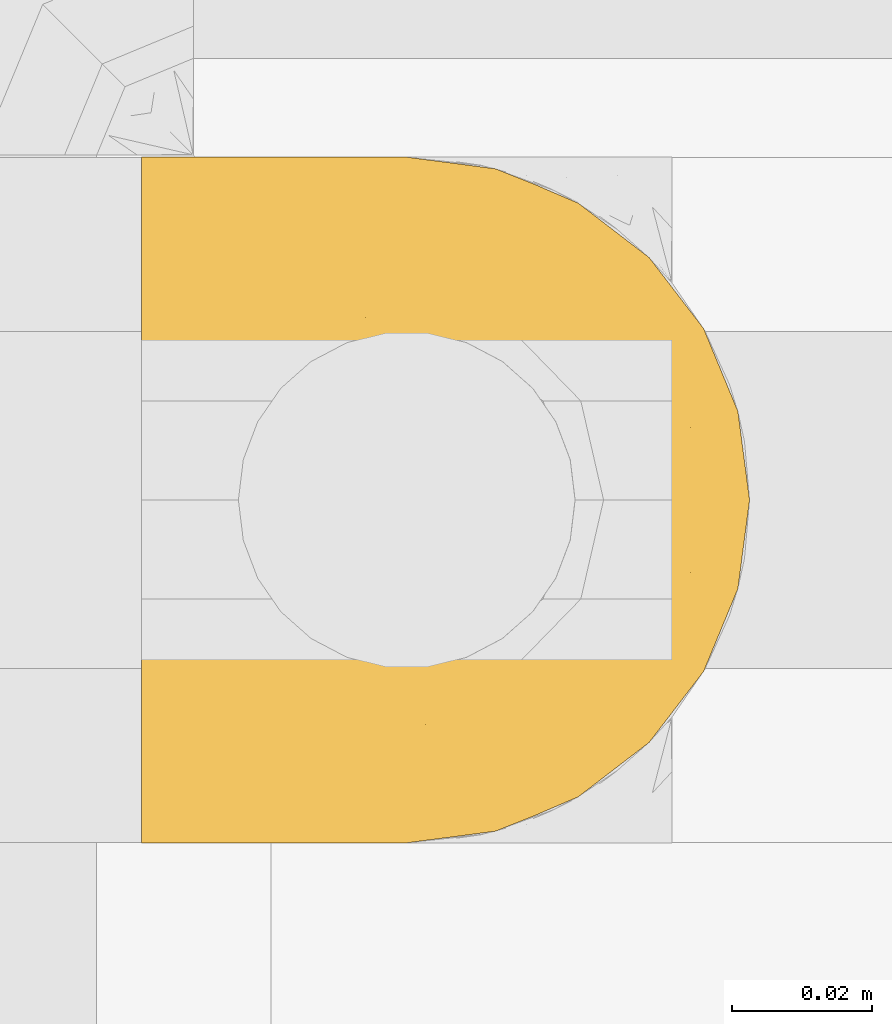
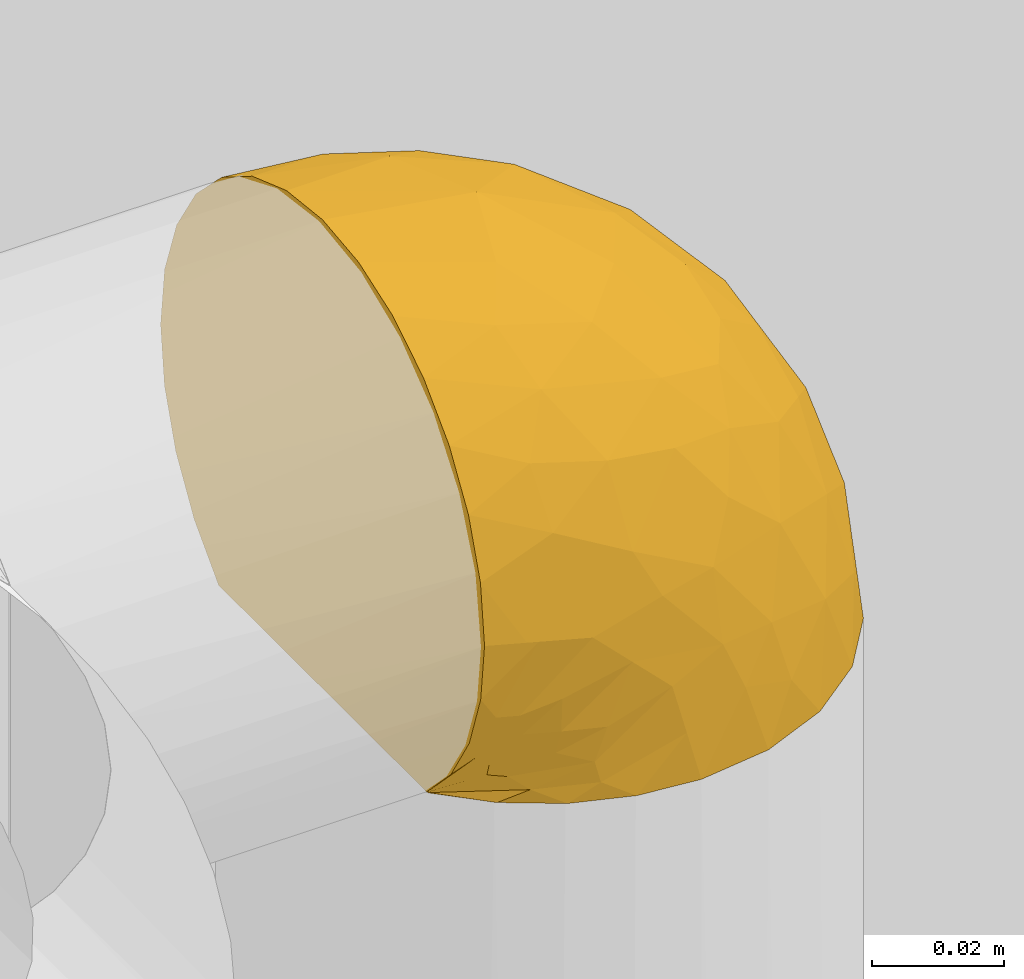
# One storey, part 31 of 94: 1 covering.
"""IFC2X3 building model written with IfcOpenShell, lengths in millimetres."""

from ifc_helpers import new_model, entity, si_unit, converted_unit, derived_unit, direction, frame, origin, place, context, subcontext, project, spatial, faceted_brep, material, element, save


model = new_model("IFC2X3")

# Units and contexts
model_context = context("Model", 3, precision=0.01, world=origin(), true_north=direction((6.123031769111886e-17, 1.0)))
body_context = subcontext(model_context, "Body", "Model", "MODEL_VIEW")
ifc_project = project(units=[si_unit("LENGTHUNIT", "METRE", prefix="MILLI"), si_unit("AREAUNIT", "SQUARE_METRE"), si_unit("VOLUMEUNIT", "CUBIC_METRE"), converted_unit("PLANEANGLEUNIT", "DEGREE", entity("IfcRatioMeasure", 0.017453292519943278), si_unit("PLANEANGLEUNIT", "RADIAN"), dimensions=[0, 0, 0, 0, 0, 0, 0]), si_unit("MASSUNIT", "GRAM", prefix="KILO"), derived_unit("MASSDENSITYUNIT", [(si_unit("MASSUNIT", "GRAM", prefix="KILO"), 1), (si_unit("LENGTHUNIT", "METRE"), -3)]), derived_unit("IONCONCENTRATIONUNIT", [(si_unit("MASSUNIT", "GRAM", prefix="KILO"), 1), (si_unit("LENGTHUNIT", "METRE"), -3)]), derived_unit("MOMENTOFINERTIAUNIT", [(si_unit("LENGTHUNIT", "METRE"), 4)]), si_unit("TIMEUNIT", "SECOND"), si_unit("FREQUENCYUNIT", "HERTZ"), si_unit("THERMODYNAMICTEMPERATUREUNIT", "DEGREE_CELSIUS"), derived_unit("THERMALTRANSMITTANCEUNIT", [(si_unit("MASSUNIT", "GRAM", prefix="KILO"), 1), (si_unit("THERMODYNAMICTEMPERATUREUNIT", "KELVIN"), -1), (si_unit("TIMEUNIT", "SECOND"), -3)]), derived_unit("THERMALCONDUCTANCEUNIT", [(si_unit("MASSUNIT", "GRAM", prefix="KILO"), 1), (si_unit("THERMODYNAMICTEMPERATUREUNIT", "KELVIN"), -1), (si_unit("TIMEUNIT", "SECOND"), -3), (si_unit("LENGTHUNIT", "METRE"), 1)]), derived_unit("VOLUMETRICFLOWRATEUNIT", [(si_unit("LENGTHUNIT", "METRE"), 3), (si_unit("TIMEUNIT", "SECOND"), -1)]), derived_unit("MASSFLOWRATEUNIT", [(si_unit("MASSUNIT", "GRAM", prefix="KILO"), 1), (si_unit("TIMEUNIT", "SECOND"), -1)]), derived_unit("ROTATIONALFREQUENCYUNIT", [(si_unit("TIMEUNIT", "SECOND"), -1)]), si_unit("ELECTRICCURRENTUNIT", "AMPERE"), si_unit("ELECTRICVOLTAGEUNIT", "VOLT"), si_unit("POWERUNIT", "WATT"), si_unit("FORCEUNIT", "NEWTON", prefix="KILO"), si_unit("ILLUMINANCEUNIT", "LUX"), si_unit("LUMINOUSFLUXUNIT", "LUMEN"), si_unit("LUMINOUSINTENSITYUNIT", "CANDELA"), derived_unit("USERDEFINED", [(si_unit("MASSUNIT", "GRAM", prefix="KILO"), -1), (si_unit("LENGTHUNIT", "METRE"), -2), (si_unit("TIMEUNIT", "SECOND"), 3), (si_unit("LUMINOUSFLUXUNIT", "LUMEN"), 1)]), derived_unit("USERDEFINED", [(si_unit("MASSUNIT", "GRAM", prefix="KILO"), 1), (si_unit("TIMEUNIT", "SECOND"), -3), (si_unit("LENGTHUNIT", "METRE"), 3), (si_unit("ELECTRICCURRENTUNIT", "AMPERE"), -2)]), derived_unit("SOUNDPOWERUNIT", [(si_unit("MASSUNIT", "GRAM", prefix="KILO"), 1), (si_unit("TIMEUNIT", "SECOND"), -3), (si_unit("LENGTHUNIT", "METRE"), 2)]), derived_unit("SOUNDPRESSUREUNIT", [(si_unit("MASSUNIT", "GRAM", prefix="KILO"), 1), (si_unit("LENGTHUNIT", "METRE"), -1), (si_unit("TIMEUNIT", "SECOND"), -2)]), derived_unit("LINEARVELOCITYUNIT", [(si_unit("LENGTHUNIT", "METRE"), 1), (si_unit("TIMEUNIT", "SECOND"), -1)]), si_unit("PRESSUREUNIT", "PASCAL"), derived_unit("USERDEFINED", [(si_unit("MASSUNIT", "GRAM", prefix="KILO"), 1), (si_unit("LENGTHUNIT", "METRE"), -2), (si_unit("TIMEUNIT", "SECOND"), -2)]), derived_unit("LINEARFORCEUNIT", [(si_unit("MASSUNIT", "GRAM", prefix="KILO"), 1), (si_unit("TIMEUNIT", "SECOND"), -2)]), derived_unit("PLANARFORCEUNIT", [(si_unit("MASSUNIT", "GRAM", prefix="KILO"), 1), (si_unit("LENGTHUNIT", "METRE"), -1), (si_unit("TIMEUNIT", "SECOND"), -2)]), derived_unit("SPECIFICHEATCAPACITYUNIT", [(si_unit("THERMODYNAMICTEMPERATUREUNIT", "KELVIN"), -1), (si_unit("LENGTHUNIT", "METRE"), 2), (si_unit("TIMEUNIT", "SECOND"), -2)]), derived_unit("HEATINGVALUEUNIT", [(si_unit("LENGTHUNIT", "METRE"), 2), (si_unit("TIMEUNIT", "SECOND"), -2)]), derived_unit("VAPORPERMEABILITYUNIT", [(si_unit("LENGTHUNIT", "METRE"), -1), (si_unit("TIMEUNIT", "SECOND"), 1)]), derived_unit("DYNAMICVISCOSITYUNIT", [(si_unit("MASSUNIT", "GRAM", prefix="KILO"), 1), (si_unit("TIMEUNIT", "SECOND"), -1), (si_unit("LENGTHUNIT", "METRE"), -1)]), derived_unit("THERMALEXPANSIONCOEFFICIENTUNIT", [(si_unit("THERMODYNAMICTEMPERATUREUNIT", "KELVIN"), -1)]), derived_unit("MODULUSOFELASTICITYUNIT", [(si_unit("MASSUNIT", "GRAM", prefix="KILO"), 1), (si_unit("LENGTHUNIT", "METRE"), -1), (si_unit("TIMEUNIT", "SECOND"), -2)]), derived_unit("ISOTHERMALMOISTURECAPACITYUNIT", [(si_unit("LENGTHUNIT", "METRE"), 3), (si_unit("MASSUNIT", "GRAM", prefix="KILO"), -1)]), derived_unit("MOISTUREDIFFUSIVITYUNIT", [(si_unit("TIMEUNIT", "SECOND"), -1), (si_unit("LENGTHUNIT", "METRE"), 2)])], contexts=[model_context])

# Site, building, storey
site_placement = place(None, origin())
site = spatial("IfcSite", under=ifc_project, at=site_placement, Name="Default", CompositionType="ELEMENT")
building_placement = place(site_placement, origin())
building = spatial("IfcBuilding", under=site, at=building_placement, CompositionType="ELEMENT")
storey_placement = place(building_placement, origin())
storey = spatial("IfcBuildingStorey", under=building, at=storey_placement, Name="Niveau 0", CompositionType="ELEMENT", Elevation=0.0)

# Covering
ifc_material = material(Name="Isolation - Laine minérale")
covering_placement = place(storey_placement, frame((-6897.752898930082, 9224.732407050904, 1050.7544560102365)))
element("IfcCovering", 1, at=covering_placement, inside=storey, material=ifc_material, Name="Isolation des canalisations:Laine minérale", ObjectType="Isolation des canalisations:Laine minérale", PredefinedType="INSULATION", context=body_context, shape_type="Brep", body=[
    faceted_brep([(1.599071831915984, 6.466386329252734, -29.412134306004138), (1.5977989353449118, 12.324234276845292, -20.09325186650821), (1.5967361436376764, 20.107905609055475, -12.312548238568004), (1.595936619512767, 29.426998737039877, -6.459227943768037), (1.5954403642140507, 39.814613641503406, -2.826140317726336), (1.5952722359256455, 50.74527223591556, -1.5952722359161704), (1.5954407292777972, 61.68764083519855, -2.828812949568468), (1.5959375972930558, 72.07840990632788, -6.466386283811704), (1.5967377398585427, 81.39729243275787, -12.32423417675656), (1.5978009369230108, 89.17799613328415, -20.107905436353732), (1.599073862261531, 95.03131648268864, -29.42699847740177), (1.600492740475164, 98.66440414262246, -39.81461328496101), (1.6019857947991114, 99.89527223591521, -50.74527177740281), (1.6034414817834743, 98.72598594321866, -61.40236378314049), (1.6048274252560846, 95.27540895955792, -71.5488631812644), (1.6060779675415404, 89.70925185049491, -80.70408977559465), (1.6071327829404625, 82.30244478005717, -88.42639881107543), (1.6071327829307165, 79.8579303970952, -88.42639881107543), (1.6071327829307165, 78.07992321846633, -88.42639881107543), (1.6071327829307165, 76.30191603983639, -88.42639881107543), (1.6071327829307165, 74.80178385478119, -88.42639881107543), (1.6071327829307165, 73.30165166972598, -88.42639881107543), (1.6071327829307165, 70.3013872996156, -88.42639881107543), (1.6071327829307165, 67.30112292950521, -88.42639881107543), (1.6071327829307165, 64.30085855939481, -88.42639881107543), (1.6071327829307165, 61.300594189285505, -88.42639881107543), (1.6071327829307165, 59.80046200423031, -88.42639881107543), (1.6071327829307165, 58.30032981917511, -88.42639881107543), (1.6071327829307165, 55.85581543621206, -88.42639881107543), (1.6071327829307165, 53.4113010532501, -88.42639881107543), (1.6071327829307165, 50.96678667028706, -88.42639881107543), (1.6071327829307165, 48.52227228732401, -88.42639881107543), (1.6071327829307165, 46.077757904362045, -88.42639881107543), (1.6071327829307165, 43.63324352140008, -88.42639881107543), (1.6071327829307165, 41.18872913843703, -88.42639881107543), (1.6071327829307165, 38.74421475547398, -88.42639881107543), (1.6071327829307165, 36.29970037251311, -88.42639881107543), (1.6071327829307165, 33.85518598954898, -88.42639881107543), (1.6071327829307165, 31.41067160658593, -88.42639881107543), (1.6071327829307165, 28.966157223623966, -88.42639881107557), (1.6071327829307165, 26.521642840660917, -88.42639881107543), (1.6071327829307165, 24.077128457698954, -88.42639881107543), (1.6071327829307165, 21.63261407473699, -88.42639881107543), (1.6071327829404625, 19.188099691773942, -88.4263988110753), (1.6060756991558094, 11.768529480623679, -80.68748290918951), (1.604824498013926, 6.20512995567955, -71.52743281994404), (1.6034386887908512, 2.760021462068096, -61.381916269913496), (1.6019857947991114, 1.5952722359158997, -50.74527177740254), (1.600491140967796, 2.828812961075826, -39.802903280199), (1.9208580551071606, 82.30244478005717, -88.74008123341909), (9.653542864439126, 89.71722737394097, -88.74008123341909), (18.80910842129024, 95.28041302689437, -88.74008123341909), (28.952564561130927, 98.72768917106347, -88.74008123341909), (39.60198544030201, 99.8952722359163, -88.74008123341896), (52.32294150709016, 98.22052659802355, -88.74008123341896), (64.17698544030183, 93.31042083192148, -88.74008123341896), (74.35628373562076, 85.49957053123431, -88.74008123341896), (82.16713403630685, 75.32027223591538, -88.74008123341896), (87.07723980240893, 63.46622830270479, -88.74008123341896), (88.75198544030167, 50.74527223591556, -88.74008123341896), (87.07723980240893, 38.0243161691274, -88.74008123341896), (82.16713403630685, 26.17027223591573, -88.74008123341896), (74.35628373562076, 15.990973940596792, -88.74008123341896), (64.17698544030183, 8.180123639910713, -88.74008123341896), (52.32294150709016, 3.2700178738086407, -88.74008123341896), (39.60198544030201, 1.5952722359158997, -88.74008123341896), (28.952564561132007, 2.7628553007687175, -88.74008123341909), (18.80910842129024, 6.210131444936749, -88.74008123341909), (9.653542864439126, 11.773317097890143, -88.74008123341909), (1.9208580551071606, 19.188099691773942, -88.74008123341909), (1.9208580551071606, 21.63261407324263, -88.74008123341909), (1.9208580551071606, 23.132746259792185, -88.74008123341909), (1.9208580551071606, 25.105069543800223, -88.74008123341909), (1.9208580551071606, 27.077392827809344, -88.74008123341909), (1.9208580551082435, 29.049716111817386, -88.74008123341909), (1.9208580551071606, 31.02203939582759, -88.74008123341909), (1.9208580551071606, 32.994362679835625, -88.74008123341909), (1.9208580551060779, 34.966685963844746, -88.74008123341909), (1.9208580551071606, 36.93900924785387, -88.74008123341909), (1.9208580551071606, 38.91133253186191, -88.74008123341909), (1.9208580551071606, 40.88365581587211, -88.74008123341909), (1.9208580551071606, 42.85597909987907, -88.74008123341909), (1.9208580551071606, 44.82830238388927, -88.74008123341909), (1.9208580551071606, 46.800625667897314, -88.74008123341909), (1.9208580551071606, 48.772948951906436, -88.74008123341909), (1.9208580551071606, 50.74527223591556, -88.74008123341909), (1.9208580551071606, 52.71759551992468, -88.74008123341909), (1.9208580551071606, 54.6899188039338, -88.74008123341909), (1.9208580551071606, 56.66224208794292, -88.74008123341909), (1.9208580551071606, 58.634565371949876, -88.74008123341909), (1.9208580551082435, 60.606888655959, -88.74008123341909), (1.9208580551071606, 62.57921193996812, -88.74008123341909), (1.9208580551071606, 64.55153522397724, -88.74008123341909), (1.9208580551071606, 66.52385850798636, -88.74008123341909), (1.9208580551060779, 69.52412288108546, -88.74008123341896), (1.9208580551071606, 72.5243872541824, -88.74008123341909), (1.9208580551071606, 74.96890163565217, -88.74008123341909), (1.9208580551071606, 77.41341601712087, -88.74008123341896), (1.9208580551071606, 79.85793039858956, -88.74008123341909), (1.8361628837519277, 47.736165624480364, -88.52569489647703), (1.8275220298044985, 49.65663871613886, -88.51682324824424), (1.8266969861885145, 40.015034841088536, -88.51601196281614), (1.8332015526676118, 37.92517038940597, -88.52257503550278), (1.8392220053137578, 67.38941388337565, -88.52900981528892), (1.8399633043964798, 24.235216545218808, -88.52982766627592), (1.7911907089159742, 20.78538987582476, -88.4860436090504), (1.8233765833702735, 59.05039645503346, -88.51280648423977), (1.8289674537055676, 78.63567332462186, -88.51825911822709), (1.830917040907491, 76.79550951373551, -88.52022572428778), (1.8217097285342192, 30.116691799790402, -88.51123240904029), (1.8321750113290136, 28.08212986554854, -88.52151329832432), (1.8083792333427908, 57.07807315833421, -88.49942842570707), (1.834998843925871, 63.56537408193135, -88.5244583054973), (1.83821648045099, 61.679067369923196, -88.52790963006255), (1.8209309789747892, 65.53769732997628, -88.51050485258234), (1.845213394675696, 53.488401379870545, -88.53579054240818), (1.8343953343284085, 51.731434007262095, -88.52382243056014), (1.8313820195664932, 80.46905905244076, -88.5206999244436), (1.8413915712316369, 45.814463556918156, -88.53141988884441), (1.84210491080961, 33.98052390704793, -88.53222335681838), (1.8378409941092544, 35.873005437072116, -88.52750147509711), (1.8387043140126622, 43.93662342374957, -88.5284420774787), (1.8289674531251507, 22.382680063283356, -88.51825911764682), (1.8398395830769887, 26.091230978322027, -88.52969076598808), (1.8289674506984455, 19.188099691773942, -88.51825911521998), (1.759820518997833, 19.188099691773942, -88.48962581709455), (1.6906735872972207, 19.188099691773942, -88.46099251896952), (1.8289674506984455, 82.30244478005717, -88.51825911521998), (1.8576101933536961, 82.30244478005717, -88.58740213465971), (1.8862529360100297, 82.30244478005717, -88.65654515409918), (1.8146438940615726, 69.2819487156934, -88.50480781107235), (1.835669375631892, 32.05086767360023, -88.52516899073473), (1.8278712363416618, 55.23977580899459, -88.51716844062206), (1.8301533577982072, 41.997192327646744, -88.51945123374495), (1.8097267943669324, 72.07367611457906, -88.50056152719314), (1.8328809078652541, 74.05171799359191, -88.52224232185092), (1.8862529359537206, 19.188099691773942, -88.65654515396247), (1.8576101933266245, 19.188099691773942, -88.58740213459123), (1.6906735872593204, 82.30244478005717, -88.46099251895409), (1.7598205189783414, 82.30244478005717, -88.48962581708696), (23.504882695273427, 97.28124811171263, -85.2160711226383), (13.758935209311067, 92.74902053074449, -85.9314252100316), (22.419691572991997, 97.28124814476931, -81.07409098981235), (10.572856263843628, 91.53690626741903, -83.12952059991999), (37.056383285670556, 99.89527223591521, -79.24062970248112), (20.60158410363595, 99.89527223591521, -55.833880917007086), (16.02666895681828, 98.55465468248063, -66.39499780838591), (9.269535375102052, 97.278080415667, -67.93615787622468), (34.51078113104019, 99.89527223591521, -69.74117817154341), (9.669415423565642, 92.07963076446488, -80.6778773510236), (7.211771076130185, 91.52900227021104, -79.78453523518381), (23.95002065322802, 98.55451017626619, -74.31823708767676), (5.12784380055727, 97.27808034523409, -66.85127426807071), (4.412633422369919, 92.74255099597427, -76.59850722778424), (17.551020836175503, 95.80067304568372, -79.64671380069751), (9.057815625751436, 99.89527223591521, -52.742145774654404), (11.101784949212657, 99.89527223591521, -53.28957634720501), (16.73274530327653, 97.00624288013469, -73.61244527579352), (27.55618261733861, 99.89527223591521, -62.787529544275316), (12.079310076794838, 95.72444952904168, -73.87822212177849), (47.96176954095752, 98.806298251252, -75.22850486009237), (57.547837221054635, 96.15395161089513, -78.87586935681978), (54.08670311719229, 96.15395204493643, -67.00165049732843), (72.10600897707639, 50.74527223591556, -37.51379527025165), (84.48607916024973, 50.74527223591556, -61.80858988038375), (80.2550700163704, 61.150947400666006, -53.87195979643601), (82.15381444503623, 69.55416171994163, -67.09796929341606), (13.854836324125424, 92.36630119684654, -25.783385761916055), (15.169378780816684, 97.139499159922, -36.2423343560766), (60.78188495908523, 68.84346530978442, -29.55728482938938), (55.39116701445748, 77.72158647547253, -30.76642950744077), (43.89997820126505, 65.87379031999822, -15.287129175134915), (86.1335261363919, 59.79406227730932, -71.31048295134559), (33.37748312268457, 98.92731379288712, -53.15850029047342), (44.0080509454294, 98.83290111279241, -65.90555334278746), (77.4102708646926, 80.66589650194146, -75.28413945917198), (67.2083799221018, 89.73858973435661, -71.16202584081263), (73.23791212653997, 70.97959326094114, -47.23537341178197), (52.833854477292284, 85.50619835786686, -37.09421375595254), (48.88358916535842, 91.98182266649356, -44.51201673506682), (40.61134472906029, 90.08495167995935, -33.70072194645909), (28.773093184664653, 97.76708397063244, -44.04752592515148), (27.452129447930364, 92.36630165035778, -30.0409418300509), (19.802234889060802, 85.50619671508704, -18.30991503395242), (64.75296844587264, 79.74170159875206, -43.4982739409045), (28.52734603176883, 50.74527223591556, -5.857499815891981), (22.71609333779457, 66.98519337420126, -7.038621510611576), (42.32198794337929, 82.95415068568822, -25.61020726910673), (33.68603350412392, 76.90235033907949, -15.883125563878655), (16.80856169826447, 76.90235057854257, -10.598498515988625), (71.08387584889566, 62.41136454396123, -38.49692724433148), (60.335507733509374, 59.14440496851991, -25.338842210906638), (72.67382138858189, 80.66589656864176, -59.13090243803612), (58.906734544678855, 90.35846878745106, -53.84310678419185), (52.82383144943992, 50.74527223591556, -18.234251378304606), (43.46995362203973, 96.76859003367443, -52.69091526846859), (82.15427290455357, 31.936382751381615, -67.0996756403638), (86.13358337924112, 41.696646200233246, -71.31060844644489), (73.23748816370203, 30.510661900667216, -47.23490240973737), (72.6756933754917, 20.82464790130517, -59.13539590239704), (77.4107429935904, 20.824647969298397, -75.28679943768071), (52.843187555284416, 15.997599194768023, -37.08480430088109), (64.76160419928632, 21.749973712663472, -43.50891063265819), (55.419828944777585, 23.78070974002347, -30.782506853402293), (71.0883269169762, 39.07689625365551, -38.50403523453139), (80.25517645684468, 40.339228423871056, -53.87239692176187), (15.17410806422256, 4.3557532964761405, -36.22965974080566), (37.056383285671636, 1.5952722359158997, -79.24062970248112), (47.96176954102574, 2.6842462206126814, -75.22850485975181), (44.00805094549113, 2.657643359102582, -65.90555334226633), (22.71514881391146, 34.51880576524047, -7.033514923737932), (67.20837992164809, 11.751954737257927, -71.1620258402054), (54.08670311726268, 5.336592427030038, -67.00165049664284), (57.547837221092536, 5.336592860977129, -78.87586935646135), (27.45833398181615, 9.133617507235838, -30.02737199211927), (13.857407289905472, 9.133617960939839, -25.76868668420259), (58.90497843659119, 11.133496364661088, -53.83650546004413), (60.35082350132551, 42.355880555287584, -25.350730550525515), (60.78442175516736, 32.65614075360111, -29.554747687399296), (16.810696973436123, 24.60311342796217, -10.589363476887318), (28.789863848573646, 3.726587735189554, -44.045698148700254), (43.47758136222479, 4.723285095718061, -52.694333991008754), (48.88086035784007, 9.51566905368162, -44.49342756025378), (43.903456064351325, 35.63545880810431, -15.282153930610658), (33.68957232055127, 24.603113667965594, -15.87444053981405), (19.805549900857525, 15.99760083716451, -18.297083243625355), (42.34691978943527, 18.562313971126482, -25.59954884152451), (20.60158410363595, 1.5952722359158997, -55.833880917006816), (34.51078113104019, 1.5952722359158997, -69.74117817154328), (9.057815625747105, 1.5952722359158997, -52.742145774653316), (11.101784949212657, 1.5952722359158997, -53.28957634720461), (33.38505339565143, 2.563710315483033, -53.16206912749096), (27.556182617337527, 1.5952722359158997, -62.787529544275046), (40.61662847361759, 11.42544860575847, -33.671997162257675), (16.471193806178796, 5.763960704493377, -78.26259891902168), (22.41969033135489, 4.209296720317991, -81.07409096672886), (23.94856457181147, 2.9362789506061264, -74.3178728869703), (23.504882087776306, 4.20929655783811, -85.21607100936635), (13.758934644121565, 8.741524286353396, -85.93142528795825), (10.575201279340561, 9.952187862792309, -83.12920021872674), (7.671624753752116, 11.370201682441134, -82.67286875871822), (16.727363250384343, 4.487034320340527, -73.6178288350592), (7.2253646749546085, 9.938963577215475, -79.75340603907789), (9.271041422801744, 4.205290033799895, -67.91421601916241), (5.128045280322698, 4.205289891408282, -66.8299238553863), (4.415614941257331, 8.736414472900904, -76.57963926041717), (16.025142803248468, 2.9365242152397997, -66.39717881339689), (10.699088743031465, 5.683961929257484, -72.77979633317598)], [[[0, 1, 2, 3, 4, 5, 6, 7, 8, 9, 10, 11, 12, 13, 14, 15, 16, 17, 18, 19, 20, 21, 22, 23, 24, 25, 26, 27, 28, 29, 30, 31, 32, 33, 34, 35, 36, 37, 38, 39, 40, 41, 42, 43, 44, 45, 46, 47, 48]], [[49, 50, 51, 52, 53, 54, 55, 56, 57, 58, 59, 60, 61, 62, 63, 64, 65, 66, 67, 68, 69, 70, 71, 72, 73, 74, 75, 76, 77, 78, 79, 80, 81, 82, 83, 84, 85, 86, 87, 88, 89, 90, 91, 92, 93, 94, 95, 96, 97, 98]], [[99, 100, 84]], [[101, 102, 35]], [[103, 94, 93]], [[72, 71, 104]], [[105, 70, 69]], [[27, 26, 106]], [[18, 107, 108]], [[109, 74, 110]], [[28, 27, 111]], [[25, 112, 113]], [[108, 97, 96]], [[114, 93, 92]], [[115, 86, 116]], [[97, 107, 98]], [[107, 17, 117]], [[79, 102, 101]], [[99, 118, 32]], [[77, 119, 120]], [[103, 93, 114]], [[112, 91, 113]], [[89, 111, 106]], [[40, 39, 110]], [[107, 97, 108]], [[32, 118, 121]], [[92, 91, 112]], [[37, 120, 119]], [[85, 116, 86]], [[70, 105, 122]], [[72, 123, 73]], [[105, 124, 125, 126, 43]], [[117, 17, 16]], [[122, 71, 70]], [[41, 122, 42]], [[117, 127, 128, 129, 49]], [[110, 123, 40]], [[42, 122, 105]], [[103, 23, 130]], [[24, 114, 112]], [[114, 24, 23]], [[104, 123, 72]], [[92, 112, 114]], [[104, 122, 41]], [[24, 112, 25]], [[110, 73, 123]], [[36, 120, 37]], [[40, 123, 41]], [[75, 74, 109]], [[131, 76, 75]], [[119, 131, 37]], [[109, 110, 39]], [[109, 39, 38]], [[74, 73, 110]], [[123, 104, 41]], [[122, 104, 71]], [[26, 25, 113]], [[113, 90, 106]], [[88, 87, 132]], [[113, 106, 26]], [[77, 76, 119]], [[132, 111, 88]], [[106, 111, 27]], [[132, 28, 111]], [[88, 111, 89]], [[89, 106, 90]], [[113, 91, 90]], [[131, 119, 76]], [[38, 37, 131]], [[120, 36, 102]], [[131, 109, 38]], [[109, 131, 75]], [[79, 78, 102]], [[78, 120, 102]], [[78, 77, 120]], [[121, 81, 133]], [[36, 35, 102]], [[33, 121, 133]], [[80, 79, 101]], [[34, 101, 35]], [[132, 29, 28]], [[81, 80, 133]], [[29, 115, 116]], [[30, 29, 116]], [[87, 115, 132]], [[100, 116, 85]], [[31, 30, 100]], [[116, 100, 30]], [[32, 31, 99]], [[118, 82, 121]], [[100, 85, 84]], [[99, 83, 118]], [[82, 118, 83]], [[33, 32, 121]], [[83, 99, 84]], [[100, 99, 31]], [[34, 33, 133]], [[121, 82, 81]], [[133, 101, 34]], [[101, 133, 80]], [[86, 115, 87]], [[132, 115, 29]], [[134, 95, 94]], [[23, 103, 114]], [[94, 103, 130]], [[98, 107, 117]], [[108, 20, 19, 18]], [[21, 135, 134]], [[20, 135, 21]], [[134, 135, 95]], [[108, 96, 135]], [[108, 135, 20]], [[135, 96, 95]], [[134, 22, 21]], [[130, 22, 134]], [[42, 105, 43]], [[105, 69, 136, 137, 124]], [[98, 117, 49]], [[117, 16, 138, 139, 127]], [[18, 17, 107]], [[94, 130, 134]], [[22, 130, 23]], [[140, 141, 142]], [[143, 129, 128, 127]], [[53, 52, 144]], [[145, 146, 147]], [[142, 148, 144]], [[149, 127, 150]], [[51, 140, 52]], [[142, 151, 148]], [[52, 140, 144]], [[129, 143, 141]], [[14, 13, 152]], [[147, 150, 153]], [[154, 141, 143]], [[150, 138, 153]], [[14, 152, 153]], [[16, 15, 138]], [[13, 12, 155, 156]], [[151, 154, 157]], [[158, 157, 146]], [[156, 147, 152]], [[14, 153, 15]], [[50, 49, 129]], [[50, 129, 141]], [[141, 51, 50]], [[159, 147, 146]], [[145, 147, 156]], [[138, 15, 153]], [[149, 157, 154]], [[150, 127, 139, 138]], [[141, 140, 51]], [[144, 140, 142]], [[156, 152, 13]], [[153, 152, 147]], [[148, 151, 158]], [[159, 146, 157]], [[146, 145, 158]], [[154, 151, 142]], [[158, 151, 157]], [[127, 149, 143]], [[159, 149, 150]], [[149, 159, 157]], [[147, 159, 150]], [[141, 154, 142]], [[154, 143, 149]], [[155, 12, 11]], [[53, 144, 160]], [[161, 55, 54]], [[160, 162, 161]], [[163, 164, 165]], [[57, 166, 58]], [[167, 168, 10]], [[169, 170, 171]], [[58, 172, 59]], [[158, 173, 174]], [[175, 57, 56]], [[176, 56, 55]], [[165, 166, 177]], [[57, 175, 166]], [[176, 55, 161]], [[178, 179, 180]], [[181, 145, 168]], [[168, 182, 181]], [[183, 182, 167]], [[183, 9, 8]], [[168, 145, 156, 155]], [[168, 11, 10]], [[169, 184, 170]], [[6, 185, 186]], [[187, 183, 188]], [[189, 183, 8]], [[171, 188, 186]], [[163, 190, 191]], [[187, 188, 170]], [[192, 176, 193]], [[8, 7, 189]], [[186, 7, 6]], [[6, 5, 185]], [[188, 189, 186]], [[169, 177, 184]], [[171, 185, 194]], [[193, 176, 162]], [[10, 9, 167]], [[144, 174, 160]], [[155, 11, 168]], [[175, 176, 192]], [[177, 166, 192]], [[172, 166, 165]], [[182, 187, 180]], [[181, 195, 173]], [[186, 189, 7]], [[183, 189, 188]], [[183, 167, 9]], [[168, 167, 182]], [[185, 171, 186]], [[191, 171, 194]], [[195, 193, 162]], [[193, 178, 184]], [[174, 162, 160]], [[181, 182, 180]], [[184, 177, 192]], [[177, 190, 165]], [[177, 169, 190]], [[172, 165, 164]], [[59, 172, 164]], [[58, 166, 172]], [[191, 190, 169]], [[163, 165, 190]], [[171, 191, 169]], [[163, 191, 194]], [[193, 184, 192]], [[181, 173, 145]], [[184, 178, 170]], [[187, 170, 178]], [[171, 170, 188]], [[180, 187, 178]], [[183, 187, 182]], [[179, 178, 193]], [[180, 179, 181]], [[193, 195, 179]], [[181, 179, 195]], [[54, 53, 160]], [[176, 161, 162]], [[54, 160, 161]], [[174, 144, 148]], [[158, 174, 148]], [[195, 162, 174]], [[176, 175, 56]], [[166, 175, 192]], [[174, 173, 195]], [[145, 173, 158]], [[61, 60, 196]], [[59, 164, 197]], [[196, 198, 199]], [[196, 199, 200]], [[201, 202, 203]], [[204, 198, 205]], [[198, 202, 199]], [[0, 48, 206]], [[207, 208, 209]], [[185, 4, 210]], [[211, 212, 213]], [[214, 215, 206]], [[64, 213, 208]], [[213, 64, 63]], [[3, 210, 4]], [[211, 216, 212]], [[217, 218, 204]], [[64, 208, 65]], [[3, 2, 219]], [[220, 221, 222]], [[62, 61, 200]], [[210, 3, 219]], [[5, 4, 185]], [[211, 63, 62]], [[203, 223, 224]], [[2, 1, 225]], [[220, 214, 206]], [[224, 219, 225]], [[1, 0, 215]], [[203, 226, 201]], [[206, 227, 220]], [[209, 228, 207]], [[223, 210, 224]], [[215, 225, 1]], [[226, 225, 214]], [[48, 47, 229]], [[206, 229, 230, 227]], [[210, 223, 185]], [[200, 211, 62]], [[48, 229, 206]], [[199, 202, 216]], [[164, 205, 197]], [[198, 204, 218]], [[231, 227, 232]], [[221, 212, 216]], [[206, 215, 0]], [[225, 215, 214]], [[225, 219, 2]], [[210, 219, 224]], [[217, 223, 218]], [[185, 223, 194]], [[199, 216, 211]], [[226, 233, 201]], [[222, 201, 233]], [[220, 231, 221]], [[198, 196, 205]], [[218, 203, 202]], [[197, 205, 196]], [[163, 205, 164]], [[196, 60, 197]], [[59, 197, 60]], [[205, 163, 204]], [[217, 163, 194]], [[163, 217, 204]], [[223, 217, 194]], [[218, 202, 198]], [[209, 232, 228]], [[216, 202, 201]], [[223, 203, 218]], [[226, 203, 224]], [[225, 226, 224]], [[233, 226, 214]], [[220, 233, 214]], [[201, 222, 216]], [[220, 222, 233]], [[221, 216, 222]], [[211, 213, 63]], [[208, 213, 212]], [[208, 212, 209]], [[208, 207, 65]], [[212, 221, 209]], [[209, 221, 231]], [[196, 200, 61]], [[211, 200, 199]], [[227, 231, 220]], [[209, 231, 232]], [[66, 65, 207]], [[46, 230, 229, 47]], [[234, 235, 236]], [[67, 237, 238]], [[239, 136, 238]], [[240, 241, 242]], [[136, 68, 238]], [[66, 237, 67]], [[136, 69, 68]], [[228, 235, 207]], [[243, 227, 230]], [[67, 238, 68]], [[207, 235, 237]], [[45, 244, 46]], [[228, 236, 235]], [[243, 244, 245]], [[46, 244, 230]], [[246, 247, 241]], [[236, 232, 241]], [[227, 243, 246]], [[247, 245, 242]], [[44, 43, 126]], [[235, 239, 238]], [[245, 45, 44]], [[240, 137, 239]], [[44, 126, 245]], [[242, 126, 125]], [[126, 242, 245]], [[240, 124, 137]], [[207, 237, 66]], [[238, 237, 235]], [[245, 244, 45]], [[230, 244, 243]], [[227, 246, 232]], [[234, 236, 241]], [[236, 228, 232]], [[247, 246, 243]], [[232, 246, 241]], [[240, 239, 234]], [[136, 239, 137]], [[124, 240, 125]], [[125, 240, 242]], [[240, 234, 241]], [[235, 234, 239]], [[245, 247, 243]], [[241, 247, 242]]]),
])

save(model, "model.ifc")
